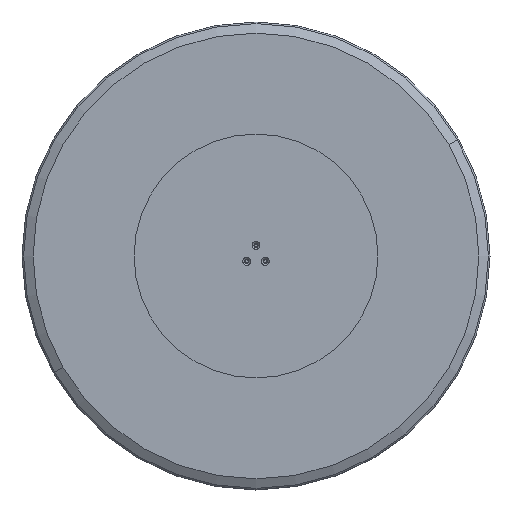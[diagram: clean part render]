
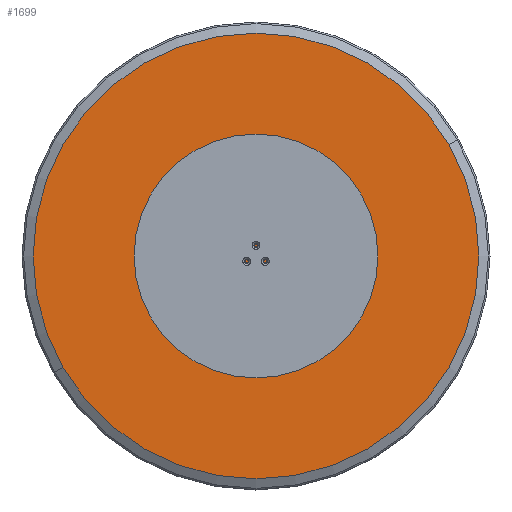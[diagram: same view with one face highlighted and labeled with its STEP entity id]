
A CAD part, front view. The second image highlights one B-rep face of the part: STEP entity #1699.
In plain terms, the highlighted planar face has unit normal (0, -1, 0).
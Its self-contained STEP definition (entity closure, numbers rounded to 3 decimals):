
#22 = CARTESIAN_POINT ( 'NONE',  ( 0., 0., 109.697 ) ) ;
#24 = CARTESIAN_POINT ( 'NONE',  ( -95., 0., -54.848 ) ) ;
#41 = DIRECTION ( 'NONE',  ( 0., 0., 1. ) ) ;
#93 = CARTESIAN_POINT ( 'NONE',  ( 95., 0., -54.848 ) ) ;
#163 = CIRCLE ( 'NONE', #2914, 484.323 ) ;
#263 = DIRECTION ( 'NONE',  ( 0., 0., -1. ) ) ;
#290 = VERTEX_POINT ( 'NONE', #3955 ) ;
#310 = CARTESIAN_POINT ( 'NONE',  ( -95., 0., -58.248 ) ) ;
#319 = VERTEX_POINT ( 'NONE', #858 ) ;
#454 = CARTESIAN_POINT ( 'NONE',  ( 0., 0., 113.097 ) ) ;
#469 = CARTESIAN_POINT ( 'NONE',  ( 0., 0., 484.323 ) ) ;
#483 = CARTESIAN_POINT ( 'NONE',  ( 0., 0., 0. ) ) ;
#485 = EDGE_CURVE ( 'NONE', #3783, #290, #1146, .T. ) ;
#562 = FACE_OUTER_BOUND ( 'NONE', #866, .T. ) ;
#603 = ORIENTED_EDGE ( 'NONE', *, *, #1217, .T. ) ;
#725 = CARTESIAN_POINT ( 'NONE',  ( 95., 0., -54.848 ) ) ;
#790 = DIRECTION ( 'NONE',  ( 0., 0., 1. ) ) ;
#858 = CARTESIAN_POINT ( 'NONE',  ( 0., 0., -484.323 ) ) ;
#866 = EDGE_LOOP ( 'NONE', ( #2628, #3899 ) ) ;
#867 = FACE_BOUND ( 'NONE', #1295, .T. ) ;
#889 = EDGE_LOOP ( 'NONE', ( #3312, #3874 ) ) ;
#900 = VERTEX_POINT ( 'NONE', #2372 ) ;
#910 = DIRECTION ( 'NONE',  ( 0., 1., 0. ) ) ;
#963 = VERTEX_POINT ( 'NONE', #469 ) ;
#1140 = FACE_BOUND ( 'NONE', #889, .T. ) ;
#1146 = CIRCLE ( 'NONE', #3378, 3.4 ) ;
#1177 = AXIS2_PLACEMENT_3D ( 'NONE', #483, #3847, #2934 ) ;
#1217 = EDGE_CURVE ( 'NONE', #1946, #1808, #3347, .T. ) ;
#1227 = ORIENTED_EDGE ( 'NONE', *, *, #485, .T. ) ;
#1295 = EDGE_LOOP ( 'NONE', ( #3354, #603 ) ) ;
#1304 = ORIENTED_EDGE ( 'NONE', *, *, #1744, .T. ) ;
#1336 = CARTESIAN_POINT ( 'NONE',  ( 0., 0., 109.697 ) ) ;
#1412 = CARTESIAN_POINT ( 'NONE',  ( 0., 0., 0. ) ) ;
#1494 = EDGE_CURVE ( 'NONE', #2500, #900, #2076, .T. ) ;
#1503 = EDGE_CURVE ( 'NONE', #319, #963, #163, .T. ) ;
#1504 = EDGE_CURVE ( 'NONE', #963, #319, #2531, .T. ) ;
#1538 = DIRECTION ( 'NONE',  ( 0., 0., 1. ) ) ;
#1606 = EDGE_LOOP ( 'NONE', ( #1304, #1227 ) ) ;
#1699 = ADVANCED_FACE ( 'NONE', ( #1140, #3606, #867, #562 ), #1788, .T. ) ;
#1725 = CARTESIAN_POINT ( 'NONE',  ( 95., 0., -58.248 ) ) ;
#1734 = DIRECTION ( 'NONE',  ( 0., 1., 0. ) ) ;
#1744 = EDGE_CURVE ( 'NONE', #290, #3783, #2095, .T. ) ;
#1788 = PLANE ( 'NONE',  #3303 ) ;
#1808 = VERTEX_POINT ( 'NONE', #454 ) ;
#1851 = EDGE_CURVE ( 'NONE', #1808, #1946, #2482, .T. ) ;
#1879 = DIRECTION ( 'NONE',  ( 0., 1., 0. ) ) ;
#1900 = DIRECTION ( 'NONE',  ( 0., 1., 0. ) ) ;
#1920 = DIRECTION ( 'NONE',  ( 0., 0., 1. ) ) ;
#1946 = VERTEX_POINT ( 'NONE', #3118 ) ;
#1972 = AXIS2_PLACEMENT_3D ( 'NONE', #725, #2602, #2282 ) ;
#2006 = DIRECTION ( 'NONE',  ( 0., 1., 0. ) ) ;
#2076 = CIRCLE ( 'NONE', #3609, 3.4 ) ;
#2095 = CIRCLE ( 'NONE', #1972, 3.4 ) ;
#2163 = DIRECTION ( 'NONE',  ( 0., 1., 0. ) ) ;
#2282 = DIRECTION ( 'NONE',  ( 0., 0., 1. ) ) ;
#2372 = CARTESIAN_POINT ( 'NONE',  ( -95., 0., -51.448 ) ) ;
#2482 = CIRCLE ( 'NONE', #2738, 3.4 ) ;
#2500 = VERTEX_POINT ( 'NONE', #310 ) ;
#2531 = CIRCLE ( 'NONE', #1177, 484.323 ) ;
#2602 = DIRECTION ( 'NONE',  ( 0., 1., 0. ) ) ;
#2628 = ORIENTED_EDGE ( 'NONE', *, *, #1504, .F. ) ;
#2697 = AXIS2_PLACEMENT_3D ( 'NONE', #24, #910, #1538 ) ;
#2738 = AXIS2_PLACEMENT_3D ( 'NONE', #22, #2163, #3480 ) ;
#2783 = AXIS2_PLACEMENT_3D ( 'NONE', #1336, #1879, #41 ) ;
#2914 = AXIS2_PLACEMENT_3D ( 'NONE', #1412, #2006, #3229 ) ;
#2934 = DIRECTION ( 'NONE',  ( 0., 0., 1. ) ) ;
#3004 = CARTESIAN_POINT ( 'NONE',  ( 0., 0., 0. ) ) ;
#3023 = EDGE_CURVE ( 'NONE', #900, #2500, #3786, .T. ) ;
#3118 = CARTESIAN_POINT ( 'NONE',  ( 0., 0., 106.297 ) ) ;
#3229 = DIRECTION ( 'NONE',  ( 0., 0., 1. ) ) ;
#3303 = AXIS2_PLACEMENT_3D ( 'NONE', #3004, #3927, #263 ) ;
#3312 = ORIENTED_EDGE ( 'NONE', *, *, #3023, .T. ) ;
#3347 = CIRCLE ( 'NONE', #2783, 3.4 ) ;
#3354 = ORIENTED_EDGE ( 'NONE', *, *, #1851, .T. ) ;
#3378 = AXIS2_PLACEMENT_3D ( 'NONE', #93, #1900, #1920 ) ;
#3480 = DIRECTION ( 'NONE',  ( 0., 0., 1. ) ) ;
#3525 = CARTESIAN_POINT ( 'NONE',  ( -95., 0., -54.848 ) ) ;
#3606 = FACE_BOUND ( 'NONE', #1606, .T. ) ;
#3609 = AXIS2_PLACEMENT_3D ( 'NONE', #3525, #1734, #790 ) ;
#3783 = VERTEX_POINT ( 'NONE', #1725 ) ;
#3786 = CIRCLE ( 'NONE', #2697, 3.4 ) ;
#3847 = DIRECTION ( 'NONE',  ( 0., 1., 0. ) ) ;
#3874 = ORIENTED_EDGE ( 'NONE', *, *, #1494, .T. ) ;
#3899 = ORIENTED_EDGE ( 'NONE', *, *, #1503, .F. ) ;
#3927 = DIRECTION ( 'NONE',  ( 0., -1., 0. ) ) ;
#3955 = CARTESIAN_POINT ( 'NONE',  ( 95., 0., -51.448 ) ) ;
